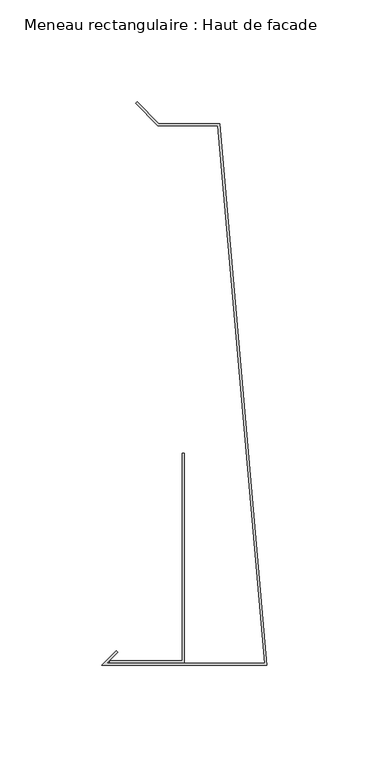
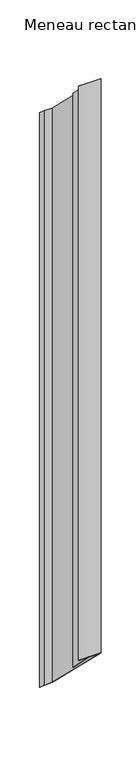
"""IFC4 building model written with IfcOpenShell, lengths in millimetres: member geometry, Meneau rectangulaire : Haut de facade."""

import ifcopenshell
import ifcopenshell.guid

model = None  # the IFC model being written
_history = None  # IfcOwnerHistory: only IFC2X3 demands one
_inside = {}  # id of a spatial element -> (the spatial element, [elements in it])
_under = {}  # id of a project, library or spatial element -> (it, [spatial elements below it])
_declared = {}  # id of a project -> (the project, [libraries it declares])
_typed = {}  # id of a type object -> (the type object, [elements of that type])
_made_of = {}  # id of a material, layer set ... -> (it, [elements and type objects made of it])


def new_model(schema):
    """Start an empty IFC model of exactly this schema.

    Asked for "IFC4X3", IfcOpenShell would pick the latest addendum, in which some entities
    have other attributes; the version numbers below select the first issue.
    IFC2X3 requires an IfcOwnerHistory on every rooted entity: one is made here for all.
    """
    global model, _history
    if schema == "IFC4X3":
        model = ifcopenshell.file(schema_version=(4, 3, 0, 0))
    else:
        model = ifcopenshell.file(schema=schema)
    _inside.clear()
    _under.clear()
    _declared.clear()
    _typed.clear()
    _made_of.clear()
    _history = None
    if model.schema == "IFC2X3":
        org = make("IfcOrganization", Name="unknown")
        user = make(
            "IfcPersonAndOrganization",
            ThePerson=make("IfcPerson", FamilyName="unknown"),
            TheOrganization=org,
        )
        app = make(
            "IfcApplication",
            ApplicationDeveloper=org,
            Version="unknown",
            ApplicationFullName="unknown",
            ApplicationIdentifier="unknown",
        )
        _history = make(
            "IfcOwnerHistory",
            OwningUser=user,
            OwningApplication=app,
            ChangeAction="ADDED",
            CreationDate=0,
        )
    return model


def make(cls, **values):
    """One entity of the class cls with the attributes given. An attribute that is None is left unset."""
    return model.create_entity(
        cls, **{name: value for name, value in values.items() if value is not None}
    )


def rooted(cls, **values):
    """An entity with a GlobalId (a new one), such as an element, a storey or a relation."""
    return make(cls, GlobalId=ifcopenshell.guid.new(), OwnerHistory=_history, **values)


def si_unit(unit_type, name, prefix=None):
    """IfcSIUnit, for example si_unit("LENGTHUNIT", "METRE", prefix="MILLI")."""
    return make("IfcSIUnit", UnitType=unit_type, Prefix=prefix, Name=name)


def assignment(units):
    """IfcUnitAssignment: the units of a project."""
    return None if units is None else make("IfcUnitAssignment", Units=units)


def point(xyz):
    """IfcCartesianPoint."""
    return None if xyz is None else make("IfcCartesianPoint", Coordinates=xyz)


def direction(xyz):
    """IfcDirection."""
    return None if xyz is None else make("IfcDirection", DirectionRatios=xyz)


def frame(location, z_axis=None, x_axis=None):
    """IfcAxis2Placement3D, a coordinate frame: its origin and axes. An axis left out is left unset."""
    return make(
        "IfcAxis2Placement3D",
        Location=point(location),
        Axis=direction(z_axis),
        RefDirection=direction(x_axis),
    )


def origin():
    """The frame at (0, 0, 0) with its axes left unset."""
    return frame((0.0, 0.0, 0.0))


def place(relative_to, where):
    """IfcLocalPlacement: puts the frame where relative to a parent placement (None: the world)."""
    return make(
        "IfcLocalPlacement", PlacementRelTo=relative_to, RelativePlacement=where
    )


def context(
    kind, dimensions, precision=None, world=None, true_north=None, identifier=None
):
    """IfcGeometricRepresentationContext, for example the 3D "Model" context."""
    return make(
        "IfcGeometricRepresentationContext",
        ContextIdentifier=identifier,
        ContextType=kind,
        CoordinateSpaceDimension=dimensions,
        Precision=precision,
        WorldCoordinateSystem=world,
        TrueNorth=true_north,
    )


def project(units=None, contexts=None):
    """IfcProject with its units and contexts."""
    return rooted(
        "IfcProject",
        Name="project",
        RepresentationContexts=contexts,
        UnitsInContext=assignment(units),
    )


def spatial(cls, under=None, at=None, **own):
    """A site, building, storey or space (cls), placed at a placement, below another one or the project."""
    s = rooted(cls, ObjectPlacement=at, **own)
    if under is not None:
        _under.setdefault(under.id(), (under, []))[1].append(s)
    return s


def faces_of(points, faces, orient=None, outer=None):
    """IfcFace entities. A face is a list of loops; a loop is a list of indices into points, from 0.

    orient and outer hold one flag for each loop. By default every Orientation is true, the
    first loop of a face is its IfcFaceOuterBound and the others are IfcFaceBound.
    """
    made = []
    for i, loops in enumerate(faces):
        bounds = []
        for j, loop in enumerate(loops):
            is_outer = j == 0 if outer is None else outer[i][j]
            bounds.append(
                make(
                    "IfcFaceOuterBound" if is_outer else "IfcFaceBound",
                    Bound=make("IfcPolyLoop", Polygon=[points[k] for k in loop]),
                    Orientation=True if orient is None else orient[i][j],
                )
            )
        made.append(make("IfcFace", Bounds=bounds))
    return made


def faceted_brep(points, faces, orient=None, outer=None, voids=None):
    """IfcFacetedBrep: a solid bounded by flat faces; with voids (closed shells), ...WithVoids."""
    shared = [point(p) for p in points]
    hull = make("IfcClosedShell", CfsFaces=faces_of(shared, faces, orient, outer))
    if voids is None:
        return make("IfcFacetedBrep", Outer=hull)
    return make(
        "IfcFacetedBrepWithVoids",
        Outer=hull,
        Voids=[
            make(cls, CfsFaces=faces_of(shared, fs, o, b)) for cls, fs, o, b in voids
        ],
    )


def shape(context_of_items, identifier, shape_type, items):
    """IfcShapeRepresentation: the items that make up one representation, for example the "Body"."""
    return make(
        "IfcShapeRepresentation",
        ContextOfItems=context_of_items,
        RepresentationIdentifier=identifier,
        RepresentationType=shape_type,
        Items=items,
    )


def source(mapping_origin, context_of_items, identifier, shape_type, items):
    """IfcRepresentationMap: a shape defined once, which mapped items show again and again."""
    return make(
        "IfcRepresentationMap",
        MappingOrigin=mapping_origin,
        MappedRepresentation=shape(context_of_items, identifier, shape_type, items),
    )


def transform(
    local_origin,
    x_axis=None,
    y_axis=None,
    z_axis=None,
    scale=None,
    scale2=None,
    scale3=None,
    uniform=True,
):
    """IfcCartesianTransformationOperator3D, or its non-uniform kind. x_axis, y_axis, z_axis: its Axis1, 2, 3."""
    if uniform:
        return make(
            "IfcCartesianTransformationOperator3D",
            Axis1=direction(x_axis),
            Axis2=direction(y_axis),
            LocalOrigin=point(local_origin),
            Scale=scale,
            Axis3=direction(z_axis),
        )
    return make(
        "IfcCartesianTransformationOperator3DnonUniform",
        Axis1=direction(x_axis),
        Axis2=direction(y_axis),
        LocalOrigin=point(local_origin),
        Scale=scale,
        Axis3=direction(z_axis),
        Scale2=scale2,
        Scale3=scale3,
    )


def mapped(mapping_source, mapping_target):
    """IfcMappedItem: shows the shape of a source again, moved by a transform."""
    return make(
        "IfcMappedItem", MappingSource=mapping_source, MappingTarget=mapping_target
    )


def made_of(thing, what):
    """Note that an element or type object is made of a material, layer set ...; save() writes the relation."""
    if what is not None:
        _made_of.setdefault(what.id(), (what, []))[1].append(thing)
    return thing


def element(
    cls,
    number,
    at=None,
    inside=None,
    cuts=None,
    type_object=None,
    material=None,
    context=None,
    identifier="Body",
    shape_type=None,
    held_by="IfcProductDefinitionShape",
    body=None,
    shapes=None,
    **own,
):
    """One element of the class cls, such as IfcWall. Its Tag is "e" and its number.

    at: its placement. inside: the storey or other place that contains it. cuts: it is an
    opening in that element (IfcRelVoidsElement). A single representation is given by context,
    identifier, shape_type and body (its items); several are given by shapes. held_by: the class
    of the entity that holds the representations. save() writes the other relations.
    """
    e = rooted(cls, Tag="e%d" % number, ObjectPlacement=at, **own)
    if body is not None:
        shapes = [shape(context, identifier, shape_type, body)]
    if shapes is not None:
        e.Representation = make(held_by, Representations=shapes)
    if inside is not None:
        _inside.setdefault(inside.id(), (inside, []))[1].append(e)
    if cuts is not None:
        rooted(
            "IfcRelVoidsElement", RelatingBuildingElement=cuts, RelatedOpeningElement=e
        )
    if type_object is not None:
        _typed.setdefault(type_object.id(), (type_object, []))[1].append(e)
    return made_of(e, material)


def aggregate(whole, parts):
    """IfcRelAggregates: a whole, such as a stair, and the parts it consists of."""
    return rooted("IfcRelAggregates", RelatingObject=whole, RelatedObjects=parts)


def save(model, path):
    """Write the relations noted so far, then the file.

    IfcRelAggregates (storeys below a building ...), IfcRelContainedInSpatialStructure (elements
    in a storey), IfcRelDefinesByType, IfcRelAssociatesMaterial and IfcRelDeclares: one each for
    every whole, place, type object, material and project.
    """
    for whole, parts in _under.values():
        aggregate(whole, parts)
    for where, things in _inside.values():
        rooted(
            "IfcRelContainedInSpatialStructure",
            RelatedElements=things,
            RelatingStructure=where,
        )
    for kind, things in _typed.values():
        rooted("IfcRelDefinesByType", RelatedObjects=things, RelatingType=kind)
    for what, things in _made_of.values():
        rooted("IfcRelAssociatesMaterial", RelatedObjects=things, RelatingMaterial=what)
    for by, libraries in _declared.values():
        rooted("IfcRelDeclares", RelatingContext=by, RelatedDefinitions=libraries)
    model.write(path)


def meneau_rectangulaire_haut_de_facade_b95a2ae0(model_context):
    return source(origin(), model_context, "Body", "Brep", [
        faceted_brep([(-1.0913085, -103.2, 103.2), (-24.0647895, 160.703755, -160.703755), (-24.0647895, 160.703755, -2361.0413641), (-1.0913085, -103.2, -2097.1376091), (-78.5857864, -103.2, 103.2), (-78.5857864, -103.2, -2097.1376091), (-73.2218254, -97.836039, 97.836039), (-73.2218254, -97.836039, -2102.5015701), (-73.9289322, -97.1289322, 97.1289322), (-73.9289322, -97.1289322, -2103.2086769), (-81.0, -104.2, 104.2), (-81.0, -104.2, -2096.1376091), (0.0, -104.2, 104.2), (0.0, -104.2, -2096.1376091), (-23.1484584, 161.703755, -161.703755), (-23.1484584, 161.703755, -2362.0413641), (-53.1484584, 161.703755, -161.703755), (-53.1484584, 161.703755, -2362.0413641), (-63.7550601, 172.3103567, -172.3103567), (-63.7550601, 172.3103567, -2372.6479658), (-64.4621669, 171.6032499, -171.6032499), (-64.4621669, 171.6032499, -2371.940859), (-53.5626719, 160.703755, -160.703755), (-53.5626719, 160.703755, -2361.0413641)], [[[0, 1, 2, 3]], [[4, 0, 3, 5]], [[6, 4, 5, 7]], [[8, 6, 7, 9]], [[10, 8, 9, 11]], [[12, 10, 11, 13]], [[14, 12, 13, 15]], [[16, 14, 15, 17]], [[18, 16, 17, 19]], [[20, 18, 19, 21]], [[22, 20, 21, 23]], [[1, 22, 23, 2]], [[1, 0, 4, 6, 8, 10, 12, 14, 16, 18, 20, 22]], [[2, 23, 21, 19, 17, 15, 13, 11, 9, 7, 5, 3]]]),
        faceted_brep([(-40.5477541, -0.0384227, 0.0384227), (-40.5477541, -102.9846816, 102.9846816), (-40.5477541, -102.9846816, -2097.3529274), (-40.5477541, -0.0384227, -2200.2991864), (-41.5477541, -0.0384227, 0.0384227), (-41.5477541, -0.0384227, -2200.2991864), (-41.5477541, -101.9846816, 101.9846816), (-41.5477541, -101.9846816, -2098.3529274), (-77.0752814, -101.9846816, 101.9846816), (-77.0752814, -101.9846816, -2098.3529274), (-77.0752814, -102.9846816, 102.9846816), (-77.0752814, -102.9846816, -2097.3529274)], [[[0, 1, 2, 3]], [[4, 0, 3, 5]], [[6, 4, 5, 7]], [[8, 6, 7, 9]], [[10, 8, 9, 11]], [[1, 10, 11, 2]], [[1, 0, 4, 6, 8, 10]], [[2, 11, 9, 7, 5, 3]]]),
    ])


if __name__ == "__main__":
    model = new_model("IFC4")
    model_context = context("Model", 3, world=origin())
    ifc_project = project(units=[si_unit("LENGTHUNIT", "METRE", prefix="MILLI")], contexts=[model_context])
    site = spatial("IfcSite", under=ifc_project)
    building = spatial("IfcBuilding", under=site)
    placement = place(None, origin())
    meneau_rectangulaire_haut_de_facade_shape = meneau_rectangulaire_haut_de_facade_b95a2ae0(model_context)
    element("IfcMember", 1, ObjectType="Meneau rectangulaire : Haut de facade", at=placement, inside=building, context=model_context, shape_type="MappedRepresentation", body=[
        mapped(meneau_rectangulaire_haut_de_facade_shape, transform((0.0, 0.0, 0.0), x_axis=(1.0, 0.0, 0.0), y_axis=(0.0, 1.0, 0.0), z_axis=(0.0, 0.0, 1.0))),
    ])
    save(model, "model.ifc")
